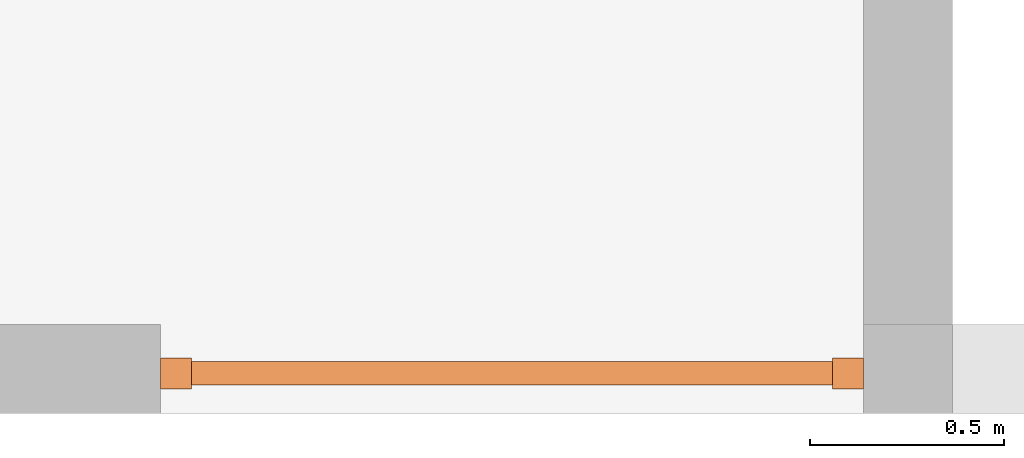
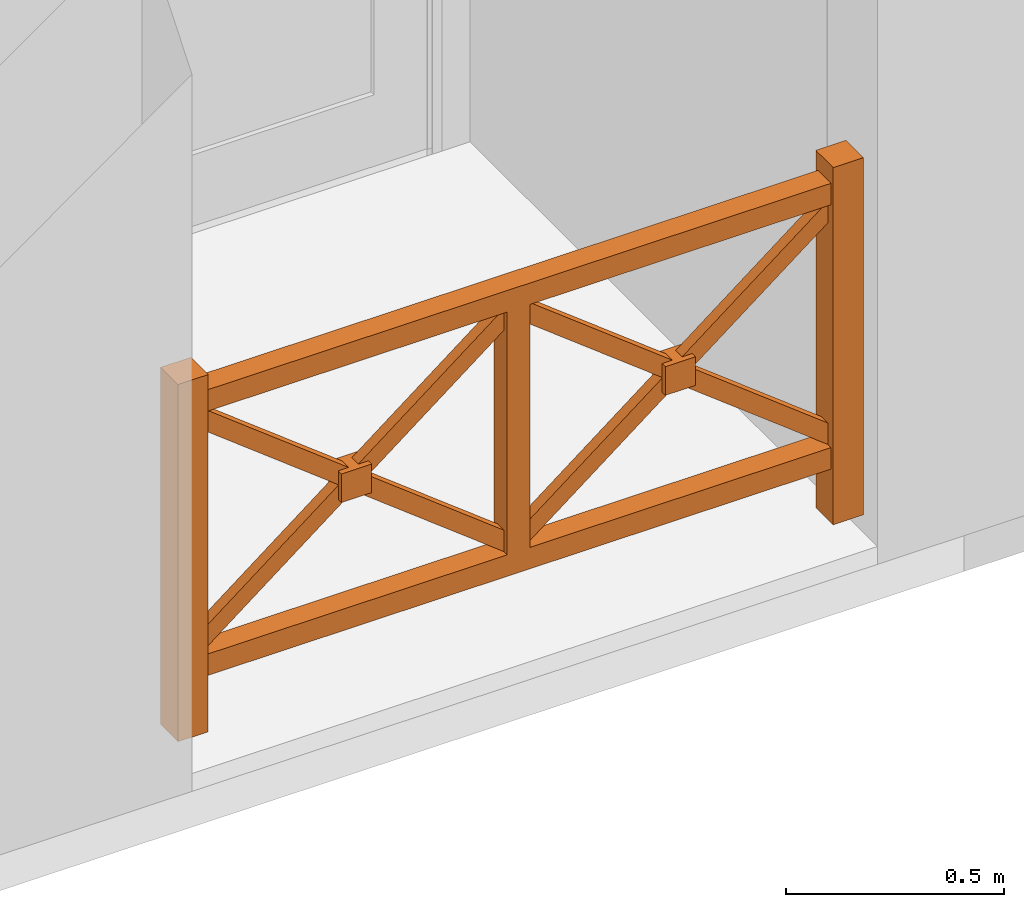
# One storey, part 8 of 8: 1 proxy.
"""IFC2X3 building model written with IfcOpenShell, lengths in metres."""

from ifc_helpers import new_model, entity, si_unit, converted_unit, derived_unit, money_unit, direction, frame, origin_with_axes, place, context, subcontext, project, spatial, faceted_brep, type_object, element, save


model = new_model("IFC2X3")

# Units and contexts
model_context = context("Model", 3, precision=1e-05, world=origin_with_axes(), true_north=direction((0.0, 1.0)))
body_context = subcontext(model_context, "Body", "Model", "MODEL_VIEW")
ifc_project = project(units=[si_unit("LENGTHUNIT", "METRE"), si_unit("AREAUNIT", "SQUARE_METRE"), si_unit("VOLUMEUNIT", "CUBIC_METRE"), converted_unit("PLANEANGLEUNIT", "DEGREE", entity("IfcPlaneAngleMeasure", 0.0174532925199), si_unit("PLANEANGLEUNIT", "RADIAN"), dimensions=[0, 0, 0, 0, 0, 0, 0]), si_unit("SOLIDANGLEUNIT", "STERADIAN"), money_unit("CHF"), converted_unit("TIMEUNIT", "Year", entity("IfcTimeMeasure", 31556926.0), si_unit("TIMEUNIT", "SECOND"), dimensions=[0, 0, 1, 0, 0, 0, 0]), si_unit("MASSUNIT", "GRAM", prefix="KILO"), si_unit("THERMODYNAMICTEMPERATUREUNIT", "DEGREE_CELSIUS"), si_unit("LUMINOUSINTENSITYUNIT", "LUMEN"), si_unit("ENERGYUNIT", "JOULE", prefix="MEGA"), derived_unit("THERMALCONDUCTANCEUNIT", [(si_unit("POWERUNIT", "WATT"), 1), (si_unit("LENGTHUNIT", "METRE"), -1), (si_unit("THERMODYNAMICTEMPERATUREUNIT", "KELVIN"), -1)]), derived_unit("SPECIFICHEATCAPACITYUNIT", [(si_unit("ENERGYUNIT", "JOULE"), 1), (si_unit("MASSUNIT", "GRAM", prefix="KILO"), -1), (si_unit("THERMODYNAMICTEMPERATUREUNIT", "KELVIN"), -1)]), derived_unit("MASSDENSITYUNIT", [(si_unit("MASSUNIT", "GRAM", prefix="KILO"), 1), (si_unit("VOLUMEUNIT", "CUBIC_METRE"), -1)])], contexts=[model_context])

# Site, building, storey
site_placement = place(None, origin_with_axes())
site = spatial("IfcSite", under=ifc_project, at=site_placement, Name="Site", CompositionType="ELEMENT")
building_placement = place(site_placement, origin_with_axes())
building = spatial("IfcBuilding", under=site, at=building_placement, Name="Bâtiment", CompositionType="ELEMENT")
storey_placement = place(building_placement, frame((0.0, 0.0, 6.0), z_axis=(0.0, 0.0, 1.0), x_axis=(1.0, 0.0, 0.0)))
storey = spatial("IfcBuildingStorey", under=building, at=storey_placement, Name="COMBLES", CompositionType="ELEMENT", Elevation=6.0)

# Proxy
building_element_proxy_type = type_object("IfcBuildingElementProxyType", PredefinedType="NOTDEFINED")
proxy_placement = place(storey_placement, frame((90.8360190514, 7.28431482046, -3.28999999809), z_axis=(0.0, 0.0, 1.0), x_axis=(1.0, 0.0, 0.0)))
element("IfcBuildingElementProxy", 1, at=proxy_placement, inside=storey, type_object=building_element_proxy_type, Name="MOB-1224", context=body_context, shape_type="Brep", body=[
    faceted_brep([(0.8275, -0.04, 0.0), (0.8275, 0.04, 0.0), (0.9075, 0.04, 0.0), (0.9075, -0.04, 0.0), (0.8275, -0.04, 1.0), (0.8275, 0.04, 1.0), (0.9075, 0.04, 1.0), (0.9075, -0.04, 1.0)], [[[0, 1, 2, 3]], [[0, 4, 5, 1]], [[1, 5, 6, 2]], [[2, 6, 7, 3]], [[3, 7, 4, 0]], [[7, 6, 5, 4]]]),
    faceted_brep([(-0.9075, -0.04, 0.0), (-0.9075, 0.04, 0.0), (-0.8275, 0.04, 0.0), (-0.8275, -0.04, 0.0), (-0.9075, -0.04, 1.0), (-0.9075, 0.04, 1.0), (-0.8275, 0.04, 1.0), (-0.8275, -0.04, 1.0)], [[[0, 1, 2, 3]], [[0, 4, 5, 1]], [[1, 5, 6, 2]], [[2, 6, 7, 3]], [[3, 7, 4, 0]], [[7, 6, 5, 4]]]),
    faceted_brep([(-0.03, -0.03, 0.21), (-0.03, 0.03, 0.21), (0.03, 0.03, 0.21), (0.03, -0.03, 0.21), (-0.03, -0.03, 0.89), (-0.03, 0.03, 0.89), (0.03, 0.03, 0.89), (0.03, -0.03, 0.89)], [[[0, 1, 2, 3]], [[0, 4, 5, 1]], [[1, 5, 6, 2]], [[2, 6, 7, 3]], [[3, 7, 4, 0]], [[7, 6, 5, 4]]]),
    faceted_brep([(-0.8275, -0.03, 0.89), (-0.8275, 0.03, 0.89), (0.8275, 0.03, 0.89), (0.8275, -0.03, 0.89), (-0.8275, -0.03, 0.95), (-0.8275, 0.03, 0.95), (0.8275, 0.03, 0.95), (0.8275, -0.03, 0.95)], [[[0, 1, 2, 3]], [[0, 4, 5, 1]], [[1, 5, 6, 2]], [[2, 6, 7, 3]], [[3, 7, 4, 0]], [[7, 6, 5, 4]]]),
    faceted_brep([(-0.8275, -0.03, 0.15), (-0.8275, 0.03, 0.15), (0.8275, 0.03, 0.15), (0.8275, -0.03, 0.15), (-0.8275, -0.03, 0.21), (-0.8275, 0.03, 0.21), (0.8275, 0.03, 0.21), (0.8275, -0.03, 0.21)], [[[0, 1, 2, 3]], [[0, 4, 5, 1]], [[1, 5, 6, 2]], [[2, 6, 7, 3]], [[3, 7, 4, 0]], [[7, 6, 5, 4]]]),
    faceted_brep([(0.8275, 0.015, 0.21), (0.8275, -0.015, 0.21), (0.03, -0.015, 0.83), (0.03, 0.015, 0.83), (0.8275, 0.015, 0.27), (0.8275, -0.015, 0.27), (0.03, -0.015, 0.89), (0.03, 0.015, 0.89)], [[[0, 1, 2, 3]], [[4, 5, 1, 0]], [[1, 5, 6, 2]], [[3, 2, 6, 7]], [[0, 3, 7, 4]], [[7, 6, 5, 4]]]),
    faceted_brep([(0.8275, 0.015, 0.89), (0.8275, -0.015, 0.89), (0.8275, -0.015, 0.83), (0.8275, 0.015, 0.83), (0.03, 0.015, 0.27), (0.03, -0.015, 0.27), (0.03, -0.015, 0.21), (0.03, 0.015, 0.21)], [[[0, 1, 2, 3]], [[4, 5, 1, 0]], [[1, 5, 6, 2]], [[3, 2, 6, 7]], [[0, 3, 7, 4]], [[7, 6, 5, 4]]]),
    faceted_brep([(0.38875, -0.03, 0.51), (0.38875, 0.03, 0.51), (0.46875, 0.03, 0.51), (0.46875, -0.03, 0.51), (0.38875, -0.03, 0.59), (0.38875, 0.03, 0.59), (0.46875, 0.03, 0.59), (0.46875, -0.03, 0.59)], [[[0, 1, 2, 3]], [[0, 4, 5, 1]], [[1, 5, 6, 2]], [[2, 6, 7, 3]], [[3, 7, 4, 0]], [[7, 6, 5, 4]]]),
    faceted_brep([(-0.03, 0.015, 0.21), (-0.03, -0.015, 0.21), (-0.8275, -0.015, 0.83), (-0.8275, 0.015, 0.83), (-0.03, 0.015, 0.27), (-0.03, -0.015, 0.27), (-0.8275, -0.015, 0.89), (-0.8275, 0.015, 0.89)], [[[0, 1, 2, 3]], [[4, 5, 1, 0]], [[1, 5, 6, 2]], [[3, 2, 6, 7]], [[0, 3, 7, 4]], [[7, 6, 5, 4]]]),
    faceted_brep([(-0.03, 0.015, 0.89), (-0.03, -0.015, 0.89), (-0.03, -0.015, 0.83), (-0.03, 0.015, 0.83), (-0.8275, 0.015, 0.27), (-0.8275, -0.015, 0.27), (-0.8275, -0.015, 0.21), (-0.8275, 0.015, 0.21)], [[[0, 1, 2, 3]], [[4, 5, 1, 0]], [[1, 5, 6, 2]], [[3, 2, 6, 7]], [[0, 3, 7, 4]], [[7, 6, 5, 4]]]),
    faceted_brep([(-0.46875, -0.03, 0.51), (-0.46875, 0.03, 0.51), (-0.38875, 0.03, 0.51), (-0.38875, -0.03, 0.51), (-0.46875, -0.03, 0.59), (-0.46875, 0.03, 0.59), (-0.38875, 0.03, 0.59), (-0.38875, -0.03, 0.59)], [[[0, 1, 2, 3]], [[0, 4, 5, 1]], [[1, 5, 6, 2]], [[2, 6, 7, 3]], [[3, 7, 4, 0]], [[7, 6, 5, 4]]]),
])

save(model, "model.ifc")
